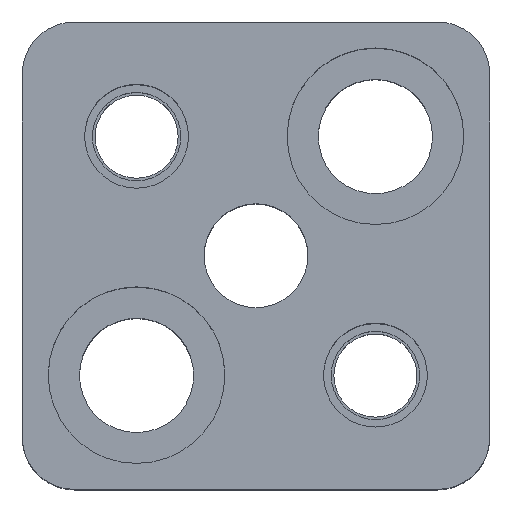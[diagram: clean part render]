
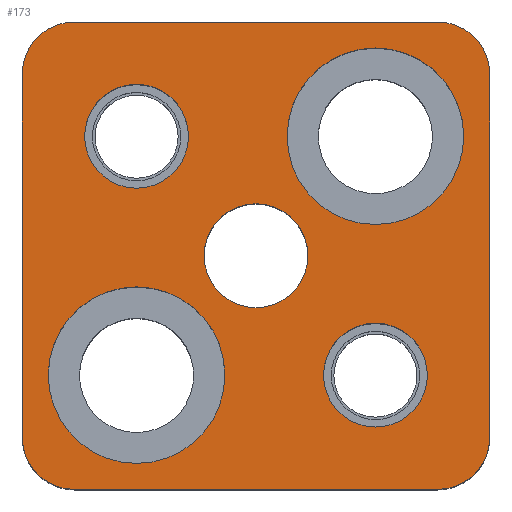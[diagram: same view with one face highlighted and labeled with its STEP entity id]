
A CAD part, top view. The second image highlights one B-rep face of the part: STEP entity #173.
In plain terms, the highlighted planar face has unit normal (0, 0, 1).
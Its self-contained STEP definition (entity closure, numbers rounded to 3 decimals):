
#112=PLANE('',#991);
#133=FACE_BOUND('',#298,.T.);
#134=FACE_BOUND('',#299,.T.);
#135=FACE_BOUND('',#300,.T.);
#136=FACE_BOUND('',#301,.T.);
#137=FACE_BOUND('',#302,.T.);
#138=FACE_BOUND('',#303,.T.);
#173=ADVANCED_FACE('',(#133,#134,#135,#136,#137,#138),#112,.T.);
#298=EDGE_LOOP('',(#490,#491,#492,#493,#494,#495,#496,#497));
#299=EDGE_LOOP('',(#498,#499));
#300=EDGE_LOOP('',(#500,#501));
#301=EDGE_LOOP('',(#502,#503));
#302=EDGE_LOOP('',(#504,#505));
#303=EDGE_LOOP('',(#506,#507));
#360=CIRCLE('',#955,5.);
#362=CIRCLE('',#958,5.);
#364=CIRCLE('',#962,5.);
#366=CIRCLE('',#965,5.);
#376=CIRCLE('',#981,5.);
#377=CIRCLE('',#982,5.);
#378=CIRCLE('',#983,5.);
#379=CIRCLE('',#984,5.);
#380=CIRCLE('',#985,8.5);
#381=CIRCLE('',#986,8.5);
#382=CIRCLE('',#987,8.5);
#383=CIRCLE('',#988,8.5);
#384=CIRCLE('',#989,5.);
#385=CIRCLE('',#990,5.);
#490=ORIENTED_EDGE('',*,*,#762,.T.);
#491=ORIENTED_EDGE('',*,*,#763,.T.);
#492=ORIENTED_EDGE('',*,*,#764,.T.);
#493=ORIENTED_EDGE('',*,*,#765,.T.);
#494=ORIENTED_EDGE('',*,*,#766,.T.);
#495=ORIENTED_EDGE('',*,*,#767,.T.);
#496=ORIENTED_EDGE('',*,*,#768,.T.);
#497=ORIENTED_EDGE('',*,*,#769,.T.);
#498=ORIENTED_EDGE('',*,*,#770,.F.);
#499=ORIENTED_EDGE('',*,*,#771,.F.);
#500=ORIENTED_EDGE('',*,*,#772,.F.);
#501=ORIENTED_EDGE('',*,*,#773,.F.);
#502=ORIENTED_EDGE('',*,*,#748,.F.);
#503=ORIENTED_EDGE('',*,*,#744,.F.);
#504=ORIENTED_EDGE('',*,*,#742,.F.);
#505=ORIENTED_EDGE('',*,*,#738,.F.);
#506=ORIENTED_EDGE('',*,*,#774,.T.);
#507=ORIENTED_EDGE('',*,*,#775,.T.);
#654=VERTEX_POINT('',#1377);
#655=VERTEX_POINT('',#1378);
#658=VERTEX_POINT('',#1390);
#659=VERTEX_POINT('',#1391);
#670=VERTEX_POINT('',#1427);
#671=VERTEX_POINT('',#1428);
#672=VERTEX_POINT('',#1430);
#673=VERTEX_POINT('',#1432);
#674=VERTEX_POINT('',#1434);
#675=VERTEX_POINT('',#1436);
#676=VERTEX_POINT('',#1438);
#677=VERTEX_POINT('',#1440);
#678=VERTEX_POINT('',#1443);
#679=VERTEX_POINT('',#1444);
#680=VERTEX_POINT('',#1447);
#681=VERTEX_POINT('',#1448);
#682=VERTEX_POINT('',#1451);
#683=VERTEX_POINT('',#1452);
#738=EDGE_CURVE('',#654,#655,#360,.T.);
#742=EDGE_CURVE('',#655,#654,#362,.T.);
#744=EDGE_CURVE('',#658,#659,#364,.T.);
#748=EDGE_CURVE('',#659,#658,#366,.T.);
#762=EDGE_CURVE('',#670,#671,#376,.T.);
#763=EDGE_CURVE('',#671,#672,#842,.T.);
#764=EDGE_CURVE('',#672,#673,#377,.T.);
#765=EDGE_CURVE('',#673,#674,#843,.T.);
#766=EDGE_CURVE('',#674,#675,#378,.T.);
#767=EDGE_CURVE('',#675,#676,#844,.T.);
#768=EDGE_CURVE('',#676,#677,#379,.T.);
#769=EDGE_CURVE('',#677,#670,#845,.T.);
#770=EDGE_CURVE('',#678,#679,#380,.T.);
#771=EDGE_CURVE('',#679,#678,#381,.T.);
#772=EDGE_CURVE('',#680,#681,#382,.T.);
#773=EDGE_CURVE('',#681,#680,#383,.T.);
#774=EDGE_CURVE('',#682,#683,#384,.T.);
#775=EDGE_CURVE('',#683,#682,#385,.T.);
#842=LINE('',#1429,#891);
#843=LINE('',#1433,#892);
#844=LINE('',#1437,#893);
#845=LINE('',#1441,#894);
#891=VECTOR('',#1174,1.);
#892=VECTOR('',#1177,1.);
#893=VECTOR('',#1180,1.);
#894=VECTOR('',#1183,1.);
#955=AXIS2_PLACEMENT_3D('',#1376,#1112,#1113);
#958=AXIS2_PLACEMENT_3D('',#1385,#1120,#1121);
#962=AXIS2_PLACEMENT_3D('',#1389,#1128,#1129);
#965=AXIS2_PLACEMENT_3D('',#1398,#1136,#1137);
#981=AXIS2_PLACEMENT_3D('',#1426,#1172,#1173);
#982=AXIS2_PLACEMENT_3D('',#1431,#1175,#1176);
#983=AXIS2_PLACEMENT_3D('',#1435,#1178,#1179);
#984=AXIS2_PLACEMENT_3D('',#1439,#1181,#1182);
#985=AXIS2_PLACEMENT_3D('',#1442,#1184,#1185);
#986=AXIS2_PLACEMENT_3D('',#1445,#1186,#1187);
#987=AXIS2_PLACEMENT_3D('',#1446,#1188,#1189);
#988=AXIS2_PLACEMENT_3D('',#1449,#1190,#1191);
#989=AXIS2_PLACEMENT_3D('',#1450,#1192,#1193);
#990=AXIS2_PLACEMENT_3D('',#1453,#1194,#1195);
#991=AXIS2_PLACEMENT_3D('',#1454,#1196,#1197);
#1112=DIRECTION('',(0.,0.,1.));
#1113=DIRECTION('',(-1.,0.,0.));
#1120=DIRECTION('',(0.,0.,1.));
#1121=DIRECTION('',(1.,0.,0.));
#1128=DIRECTION('',(0.,0.,1.));
#1129=DIRECTION('',(-1.,0.,0.));
#1136=DIRECTION('',(0.,0.,1.));
#1137=DIRECTION('',(1.,0.,0.));
#1172=DIRECTION('',(0.,0.,1.));
#1173=DIRECTION('',(-0.707,0.707,0.));
#1174=DIRECTION('',(0.,1.,0.));
#1175=DIRECTION('',(0.,0.,1.));
#1176=DIRECTION('',(-0.707,-0.707,0.));
#1177=DIRECTION('',(-1.,0.,0.));
#1178=DIRECTION('',(0.,0.,1.));
#1179=DIRECTION('',(0.707,-0.707,0.));
#1180=DIRECTION('',(0.,-1.,0.));
#1181=DIRECTION('',(0.,0.,1.));
#1182=DIRECTION('',(0.707,0.707,0.));
#1183=DIRECTION('',(1.,0.,0.));
#1184=DIRECTION('',(0.,0.,1.));
#1185=DIRECTION('',(1.,0.,0.));
#1186=DIRECTION('',(0.,0.,1.));
#1187=DIRECTION('',(-1.,0.,0.));
#1188=DIRECTION('',(0.,0.,1.));
#1189=DIRECTION('',(1.,0.,0.));
#1190=DIRECTION('',(0.,0.,1.));
#1191=DIRECTION('',(-1.,0.,0.));
#1192=DIRECTION('',(0.,0.,-1.));
#1193=DIRECTION('',(-1.,0.,0.));
#1194=DIRECTION('',(0.,0.,-1.));
#1195=DIRECTION('',(1.,0.,0.));
#1196=DIRECTION('',(0.,0.,1.));
#1197=DIRECTION('',(-1.,0.,0.));
#1376=CARTESIAN_POINT('',(11.5,-11.5,35.));
#1377=CARTESIAN_POINT('',(11.5,-16.5,35.));
#1378=CARTESIAN_POINT('',(11.5,-6.5,35.));
#1385=CARTESIAN_POINT('',(11.5,-11.5,35.));
#1389=CARTESIAN_POINT('',(-11.5,11.5,35.));
#1390=CARTESIAN_POINT('',(-11.5,6.5,35.));
#1391=CARTESIAN_POINT('',(-11.5,16.5,35.));
#1398=CARTESIAN_POINT('',(-11.5,11.5,35.));
#1426=CARTESIAN_POINT('',(17.5,-17.5,35.));
#1427=CARTESIAN_POINT('',(17.5,-22.5,35.));
#1428=CARTESIAN_POINT('',(22.5,-17.5,35.));
#1429=CARTESIAN_POINT('',(22.5,17.5,35.));
#1430=CARTESIAN_POINT('',(22.5,17.5,35.));
#1431=CARTESIAN_POINT('',(17.5,17.5,35.));
#1432=CARTESIAN_POINT('',(17.5,22.5,35.));
#1433=CARTESIAN_POINT('',(-17.5,22.5,35.));
#1434=CARTESIAN_POINT('',(-17.5,22.5,35.));
#1435=CARTESIAN_POINT('',(-17.5,17.5,35.));
#1436=CARTESIAN_POINT('',(-22.5,17.5,35.));
#1437=CARTESIAN_POINT('',(-22.5,17.5,35.));
#1438=CARTESIAN_POINT('',(-22.5,-17.5,35.));
#1439=CARTESIAN_POINT('',(-17.5,-17.5,35.));
#1440=CARTESIAN_POINT('',(-17.5,-22.5,35.));
#1441=CARTESIAN_POINT('',(-17.5,-22.5,35.));
#1442=CARTESIAN_POINT('',(11.5,11.5,35.));
#1443=CARTESIAN_POINT('',(11.5,20.,35.));
#1444=CARTESIAN_POINT('',(11.5,3.,35.));
#1445=CARTESIAN_POINT('',(11.5,11.5,35.));
#1446=CARTESIAN_POINT('',(-11.5,-11.5,35.));
#1447=CARTESIAN_POINT('',(-11.5,-3.,35.));
#1448=CARTESIAN_POINT('',(-11.5,-20.,35.));
#1449=CARTESIAN_POINT('',(-11.5,-11.5,35.));
#1450=CARTESIAN_POINT('',(0.,0.,35.));
#1451=CARTESIAN_POINT('',(0.,5.,35.));
#1452=CARTESIAN_POINT('',(0.,-5.,35.));
#1453=CARTESIAN_POINT('',(0.,0.,35.));
#1454=CARTESIAN_POINT('',(17.5,-22.5,35.));
